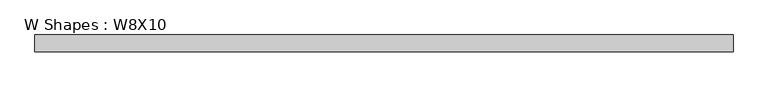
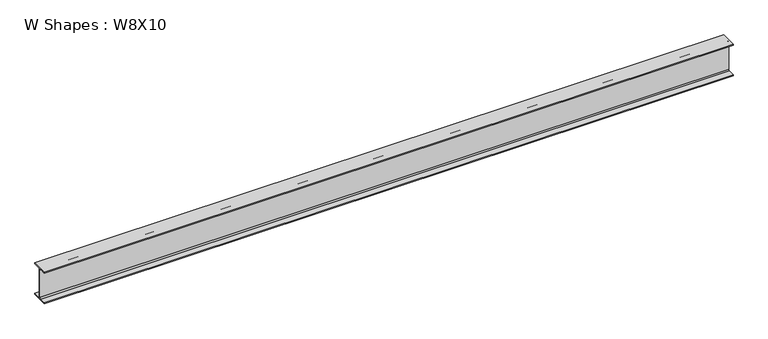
"""IFC4 building model written with IfcOpenShell, lengths in millimetres: beam geometry, W Shapes : W8X10."""

from ifc_helpers import new_model, si_unit, point, frame, frame_2d, origin, place, context, project, spatial, polyline, circle_curve, trimmed, segment, composite_curve, outline, extrude, source, transform, mapped, element, save


def w_shapes_w8x10_4e24d253(model_context):
    return source(origin(), model_context, "Body", "SweptSolid", [
        extrude(outline(composite_curve([segment(polyline([(50.038, -94.996), (50.038, -100.203), (-50.038, -100.203), (-50.038, -94.996), (-9.779, -94.996)]), True, "CONTINUOUS"), segment(trimmed(circle_curve(frame_2d((-9.779, -87.376)), 7.62), [point((-9.779, -94.996))], [point((-2.159, -87.376))], True, "CARTESIAN"), True, "CONTINUOUS"), segment(polyline([(-2.159, -87.376), (-2.159, 87.376)]), True, "CONTINUOUS"), segment(trimmed(circle_curve(frame_2d((-9.779, 87.376)), 7.62), [point((-2.159, 87.376))], [point((-9.779, 94.996))], True, "CARTESIAN"), True, "CONTINUOUS"), segment(polyline([(-9.779, 94.996), (-50.038, 94.996), (-50.038, 100.203), (50.038, 100.203), (50.038, 94.996), (9.779, 94.996)]), True, "CONTINUOUS"), segment(trimmed(circle_curve(frame_2d((9.779, 87.376)), 7.62), [point((9.779, 94.996))], [point((2.159, 87.376))], True, "CARTESIAN"), True, "CONTINUOUS"), segment(polyline([(2.159, 87.376), (2.159, -87.376)]), True, "CONTINUOUS"), segment(trimmed(circle_curve(frame_2d((9.779, -87.376)), 7.62), [point((2.159, -87.376))], [point((9.779, -94.996))], True, "CARTESIAN"), True, "CONTINUOUS"), segment(polyline([(9.779, -94.996), (50.038, -94.996)]), True, "CONTINUOUS")], self_intersect=False)), frame((-2091.4904285, 0.0, 0.0), z_axis=(1.0, 0.0, 0.0), x_axis=(0.0, 1.0, 0.0)), (0.0, 0.0, 1.0), 4182.980857),
    ])


if __name__ == "__main__":
    model = new_model("IFC4")
    model_context = context("Model", 3, world=origin())
    ifc_project = project(units=[si_unit("LENGTHUNIT", "METRE", prefix="MILLI")], contexts=[model_context])
    site = spatial("IfcSite", under=ifc_project)
    building = spatial("IfcBuilding", under=site)
    placement = place(None, origin())
    w_shapes_w8x10_shape = w_shapes_w8x10_4e24d253(model_context)
    element("IfcBeam", 1, ObjectType="W Shapes : W8X10", at=placement, inside=building, context=model_context, shape_type="MappedRepresentation", body=[
        mapped(w_shapes_w8x10_shape, transform((0.0, 0.0, 0.0), x_axis=(1.0, 0.0, 0.0), y_axis=(0.0, 1.0, 0.0), z_axis=(0.0, 0.0, 1.0))),
    ])
    save(model, "model.ifc")
